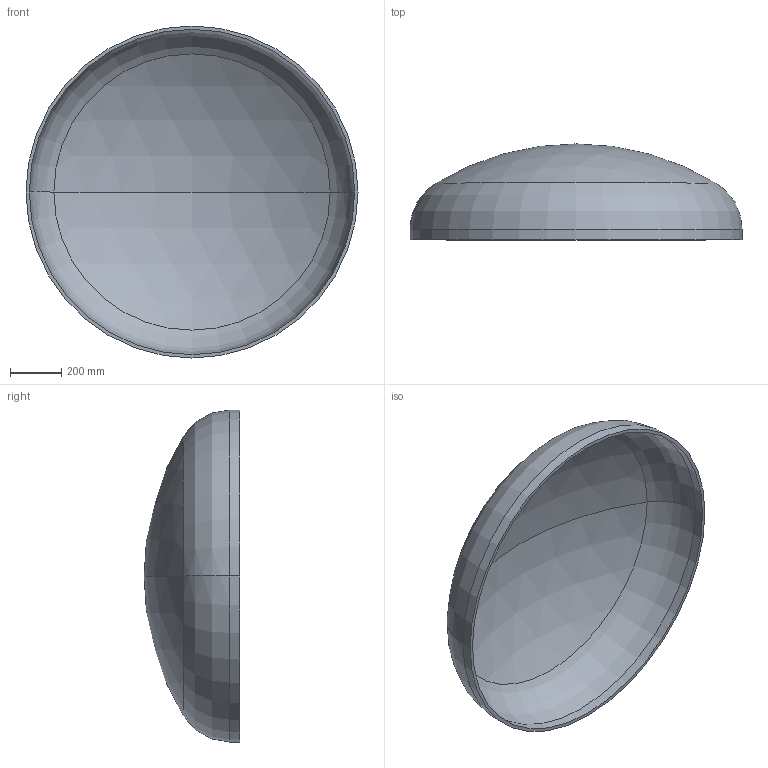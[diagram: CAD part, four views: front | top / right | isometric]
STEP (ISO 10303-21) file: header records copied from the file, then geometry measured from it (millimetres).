
FILE_DESCRIPTION (( 'STEP AP203' ), '1' );
FILE_NAME ('DIN 28013 Korbbogenform_-_Boden DIN 28013 - 1300 x 40 - I - s=13.step', '2016-07-01T09:43:26', ( '' ), ( '' ), 'SwSTEP 2.0', 'SolidWorks 2013', '' );
FILE_SCHEMA (( 'CONFIG_CONTROL_DESIGN' ));
Length unit declared in the file: millimetre
Products named in the file (1): DIN 28013 Korbbogenform_-_Boden DIN 28013 - 1300 x 40 - I - s=13
Bounding box: 1300 x 375.62 x 1300 mm (x, y, z)
Volume: 25682097.4 mm3; surface area: 4004006.4 mm2
Topology: 1 solids, 1 shells, 13 faces, 24 edges, 14 vertices
Faces by surface type: torus 4, cylinder 4, sphere 4, plane 1
Entity records: 407 total; most frequent: DIRECTION 72, CARTESIAN_POINT 52, ORIENTED_EDGE 48, AXIS2_PLACEMENT_3D 34, EDGE_CURVE 24, CIRCLE 20, VERTEX_POINT 14, EDGE_LOOP 14
